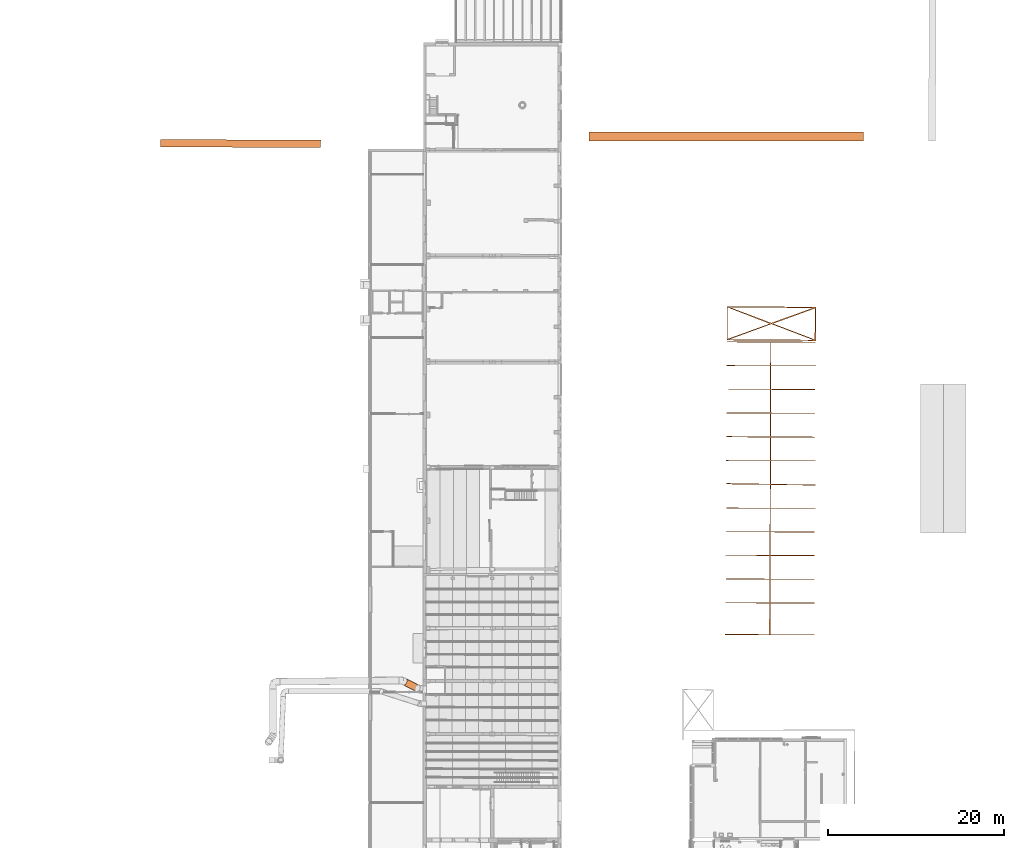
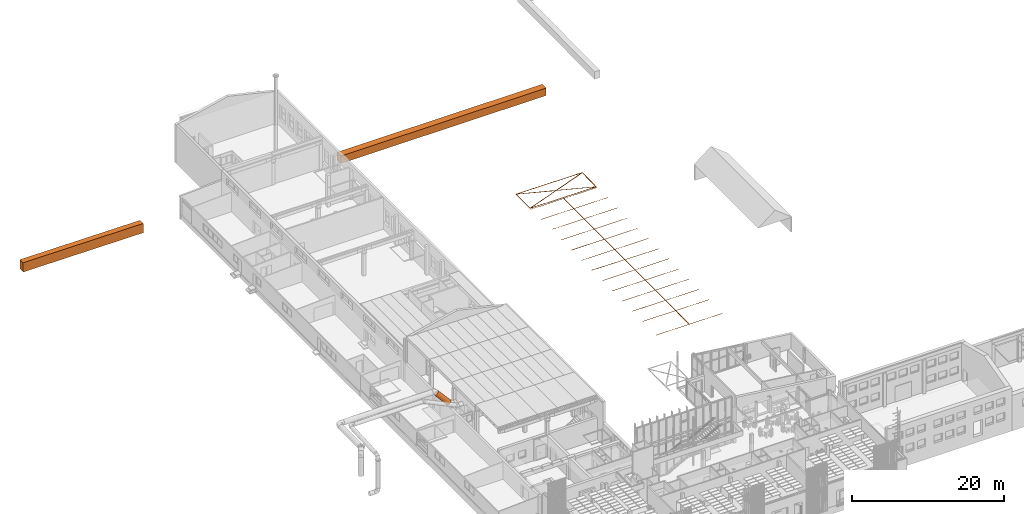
# One storey, part 296 of 301: 6 proxies.
"""IFC2X3 building model written with IfcOpenShell, lengths in millimetres."""

from ifc_helpers import new_model, entity, si_unit, converted_unit, derived_unit, money_unit, direction, frame, origin_with_axes, place, context, subcontext, project, spatial, open_shell, faceted_brep, surface_model, material, type_object, element, save


model = new_model("IFC2X3")

# Units and contexts
model_context = context("Model", 3, precision=0.01, world=origin_with_axes(), true_north=direction((0.0, 1.0)))
body_context = subcontext(model_context, "Body", "Model", "MODEL_VIEW")
ifc_project = project(units=[si_unit("LENGTHUNIT", "METRE", prefix="MILLI"), si_unit("AREAUNIT", "SQUARE_METRE"), si_unit("VOLUMEUNIT", "CUBIC_METRE"), converted_unit("PLANEANGLEUNIT", "DEGREE", entity("IfcPlaneAngleMeasure", 0.0174532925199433), si_unit("PLANEANGLEUNIT", "RADIAN"), dimensions=[0, 0, 0, 0, 0, 0, 0]), money_unit("EUR"), converted_unit("TIMEUNIT", "Year", entity("IfcTimeMeasure", 31557600.0), si_unit("TIMEUNIT", "SECOND"), dimensions=[0, 0, 1, 0, 0, 0, 0]), si_unit("MASSUNIT", "GRAM", prefix="KILO"), si_unit("THERMODYNAMICTEMPERATUREUNIT", "DEGREE_CELSIUS"), si_unit("LUMINOUSINTENSITYUNIT", "LUMEN"), si_unit("ENERGYUNIT", "JOULE", prefix="MEGA"), derived_unit("THERMALCONDUCTANCEUNIT", [(si_unit("POWERUNIT", "WATT"), 1), (si_unit("LENGTHUNIT", "METRE"), -1), (si_unit("THERMODYNAMICTEMPERATUREUNIT", "KELVIN"), -1)]), derived_unit("SPECIFICHEATCAPACITYUNIT", [(si_unit("ENERGYUNIT", "JOULE"), 1), (si_unit("MASSUNIT", "GRAM", prefix="KILO"), -1), (si_unit("THERMODYNAMICTEMPERATUREUNIT", "KELVIN"), -1)]), derived_unit("MASSDENSITYUNIT", [(si_unit("MASSUNIT", "GRAM", prefix="KILO"), 1), (si_unit("VOLUMEUNIT", "CUBIC_METRE"), -1)])], contexts=[model_context])

# Site, building, storey
site_placement = place(None, frame((0.0, 0.0, 8650.0), z_axis=(0.0, 0.0, 1.0), x_axis=(1.0, 0.0, 0.0)))
site = spatial("IfcSite", under=ifc_project, at=site_placement, Name="43301:001:0844", CompositionType="ELEMENT")
building_placement = place(site_placement, origin_with_axes())
building = spatial("IfcBuilding", under=site, at=building_placement, Name="Kuressaare Ametikooli tuulikute mehaanikute õppekorpus", CompositionType="ELEMENT")
storey_placement = place(building_placement, origin_with_axes())
storey = spatial("IfcBuildingStorey", under=building, at=storey_placement, Name="1.korrus", CompositionType="ELEMENT", Elevation=0.0)

# Proxies
ifc_material = material(Name="GENEERILINE - KONSTRUKTRIOON")
building_element_proxy_type_1 = type_object("IfcBuildingElementProxyType", Name="GENEERILINE - KONSTRUKTRIOON 20", PredefinedType="NOTDEFINED")
proxy_1_placement = place(storey_placement, frame((122430.4075336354, 88858.4136833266, -500.0), z_axis=(0.0, 0.0, 1.0), x_axis=(1.0, 0.0, 0.0)))
element("IfcBuildingElementProxy", 1, at=proxy_1_placement, inside=storey, type_object=building_element_proxy_type_1, material=ifc_material, context=body_context, shape_type="Brep", body=[
    faceted_brep([(0.0, 0.0, 0.0), (0.0, 0.0, -20.00000000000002), (10120.95669643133, -68.11050356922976, -20.00000000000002), (10120.95669643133, -68.11050356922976, 0.0), (25.90202052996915, 3848.939802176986, 0.0), (25.90202052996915, 3848.939802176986, -20.00000000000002), (10146.85871696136, 3780.829298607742, -20.00000000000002), (4884.656552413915, 1875.834626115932, -20.00000000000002), (99.57835000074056, 3728.377258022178, -20.00000000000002), (99.57835000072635, 141.5393962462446, -20.00000000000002), (343.530965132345, 3739.535767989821, -20.00000000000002), (5073.5973617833, 1961.044111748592, -20.00000000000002), (9781.777729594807, 3669.515544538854, -20.00000000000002), (9997.076970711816, 81.63685423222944, -20.00000000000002), (10041.36672550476, 3623.425166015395, -20.00000000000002), (5256.28852309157, 1887.011137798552, -20.00000000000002), (343.5309651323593, 102.6410153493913, -20.00000000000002), (9800.87586100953, 42.45892708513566, -20.00000000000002), (5073.597361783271, 1837.465438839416, -20.00000000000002), (10146.85871696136, 3780.829298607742, 0.0), (99.57835000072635, 141.5393962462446, 0.0), (99.57835000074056, 3728.377258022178, 0.0), (4884.656552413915, 1875.834626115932, 0.0), (9781.777729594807, 3669.515544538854, 0.0), (5073.5973617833, 1961.044111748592, 0.0), (343.530965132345, 3739.535767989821, 0.0), (5256.28852309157, 1887.011137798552, 0.0), (10041.36672550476, 3623.425166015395, 0.0), (9997.076970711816, 81.63685423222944, 0.0), (5073.597361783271, 1837.465438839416, 0.0), (9800.87586100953, 42.45892708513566, 0.0), (343.5309651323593, 102.6410153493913, 0.0)], [[[0, 1, 2, 3]], [[4, 5, 1, 0]], [[2, 1, 5, 6], [7, 8, 9], [10, 11, 12], [13, 14, 15], [16, 17, 18]], [[3, 2, 6, 19]], [[4, 0, 3, 19], [20, 21, 22], [23, 24, 25], [26, 27, 28], [29, 30, 31]], [[19, 6, 5, 4]], [[21, 8, 7, 22]], [[20, 9, 8, 21]], [[22, 7, 9, 20]], [[24, 11, 10, 25]], [[23, 12, 11, 24]], [[25, 10, 12, 23]], [[27, 14, 13, 28]], [[26, 15, 14, 27]], [[28, 13, 15, 26]], [[30, 17, 16, 31]], [[29, 18, 17, 30]], [[31, 16, 18, 29]]]),
])
proxy_2_placement = place(storey_placement, frame((122430.4075336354, 88858.4136833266, -500.0), z_axis=(0.0, 0.0, 1.0), x_axis=(1.0, 0.0, 0.0)))
element("IfcBuildingElementProxy", 2, at=proxy_2_placement, inside=storey, type_object=building_element_proxy_type_1, material=ifc_material, context=body_context, shape_type="Brep", body=[
    faceted_brep([(0.0, 0.0, 0.0), (0.0, 0.0, -20.00000000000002), (10120.95669643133, -68.11050356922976, -20.00000000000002), (10120.95669643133, -68.11050356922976, 0.0), (25.90202052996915, 3848.939802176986, 0.0), (25.90202052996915, 3848.939802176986, -20.00000000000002), (10146.85871696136, 3780.829298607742, -20.00000000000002), (4884.656552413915, 1875.834626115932, -20.00000000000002), (99.57835000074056, 3728.377258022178, -20.00000000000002), (99.57835000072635, 141.5393962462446, -20.00000000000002), (343.530965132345, 3739.535767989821, -20.00000000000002), (5073.5973617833, 1961.044111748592, -20.00000000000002), (9781.777729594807, 3669.515544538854, -20.00000000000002), (9997.076970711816, 81.63685423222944, -20.00000000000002), (10041.36672550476, 3623.425166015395, -20.00000000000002), (5256.28852309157, 1887.011137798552, -20.00000000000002), (343.5309651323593, 102.6410153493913, -20.00000000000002), (9800.87586100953, 42.45892708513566, -20.00000000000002), (5073.597361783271, 1837.465438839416, -20.00000000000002), (10146.85871696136, 3780.829298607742, 0.0), (99.57835000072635, 141.5393962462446, 0.0), (99.57835000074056, 3728.377258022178, 0.0), (4884.656552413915, 1875.834626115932, 0.0), (9781.777729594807, 3669.515544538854, 0.0), (5073.5973617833, 1961.044111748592, 0.0), (343.530965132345, 3739.535767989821, 0.0), (5256.28852309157, 1887.011137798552, 0.0), (10041.36672550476, 3623.425166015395, 0.0), (9997.076970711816, 81.63685423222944, 0.0), (5073.597361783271, 1837.465438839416, 0.0), (9800.87586100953, 42.45892708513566, 0.0), (343.5309651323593, 102.6410153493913, 0.0)], [[[0, 1, 2, 3]], [[4, 5, 1, 0]], [[2, 1, 5, 6], [7, 8, 9], [10, 11, 12], [13, 14, 15], [16, 17, 18]], [[3, 2, 6, 19]], [[4, 0, 3, 19], [20, 21, 22], [23, 24, 25], [26, 27, 28], [29, 30, 31]], [[19, 6, 5, 4]], [[21, 8, 7, 22]], [[20, 9, 8, 21]], [[22, 7, 9, 20]], [[24, 11, 10, 25]], [[23, 12, 11, 24]], [[25, 10, 12, 23]], [[27, 14, 13, 28]], [[26, 15, 14, 27]], [[28, 13, 15, 26]], [[30, 17, 16, 31]], [[29, 18, 17, 30]], [[31, 16, 18, 29]]]),
])
building_element_proxy_type_2 = type_object("IfcBuildingElementProxyType", Name="GENEERILINE - KONSTRUKTRIOON 850", PredefinedType="NOTDEFINED")
proxy_3_placement = place(storey_placement, frame((58031.7783611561, 110843.1492572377, -1500.0), z_axis=(0.0, 0.0, 1.0), x_axis=(0.9999888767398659, -0.004716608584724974, 0.0)))
element("IfcBuildingElementProxy", 3, at=proxy_3_placement, inside=storey, type_object=building_element_proxy_type_2, material=ifc_material, context=body_context, shape_type="Brep", body=[
    faceted_brep([(0.0, 849.9999999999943, 0.0), (18215.16605798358, 850.0000000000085, 0.0), (18215.16605798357, 0.0, 0.0), (0.0, 0.0, 0.0), (0.0, 849.9999999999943, 1500.0), (18215.16605798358, 850.0000000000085, 1500.0), (18215.16605798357, 0.0, 1500.0), (0.0, 0.0, 1500.0)], [[[0, 1, 2, 3]], [[4, 5, 1, 0]], [[2, 1, 5, 6]], [[3, 2, 6, 7]], [[4, 0, 3, 7]], [[7, 6, 5, 4]]]),
])
building_element_proxy_type_3 = type_object("IfcBuildingElementProxyType", Name="GENEERILINE - KONSTRUKTRIOON 1030", PredefinedType="NOTDEFINED")
proxy_4_placement = place(storey_placement, frame((106739.988251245, 111515.2261616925, -1500.0), z_axis=(0.0, 0.0, 1.0), x_axis=(1.0, 0.0, 0.0)))
element("IfcBuildingElementProxy", 4, at=proxy_4_placement, inside=storey, type_object=building_element_proxy_type_3, material=ifc_material, context=body_context, shape_type="Brep", body=[
    faceted_brep([(0.0, 1030.000000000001, 0.0), (31233.73694227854, 1030.000000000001, 0.0), (31233.73694227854, 0.0, 0.0), (0.0, 0.0, 0.0), (0.0, 1030.000000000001, 1200.0), (31233.73694227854, 1030.000000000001, 1200.0), (31233.73694227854, 0.0, 1200.0), (0.0, 0.0, 1200.0)], [[[0, 1, 2, 3]], [[4, 5, 1, 0]], [[2, 1, 5, 6]], [[3, 2, 6, 7]], [[4, 0, 3, 7]], [[7, 6, 5, 4]]]),
])
building_element_proxy_type_4 = type_object("IfcBuildingElementProxyType", Name="GENEERILINE - KONSTRUKTRIOON 10", PredefinedType="NOTDEFINED")
proxy_5_placement = place(storey_placement, frame((122253.5304096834, 55345.74831481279, -500.0), z_axis=(0.0, 0.0, 1.0), x_axis=(1.0, 0.0, 0.0)))
element("IfcBuildingElementProxy", 5, at=proxy_5_placement, inside=storey, type_object=building_element_proxy_type_4, material=ifc_material, context=body_context, shape_type="Brep", body=[
    faceted_brep([(0.0, 0.0, 0.0), (0.0, 0.0, -10.00000000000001), (10146.43569666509, -31.57187734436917, -10.00000000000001), (10146.43569666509, -31.57187734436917, 0.0), (0.2489285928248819, 79.99961271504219, 0.0), (0.2489285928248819, 79.99961271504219, -10.00000000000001), (4991.690418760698, 64.46813119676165, -10.00000000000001), (5025.976009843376, 3589.378512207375, -10.00000000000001), (23.14186792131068, 3604.94544335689, -10.00000000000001), (24.64218650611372, 3701.585919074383, -10.00000000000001), (5026.2249384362, 3669.378124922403, -10.00000000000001), (5034.401625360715, 6297.167001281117, -10.00000000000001), (70.08955341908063, 6312.21229374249, -10.00000000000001), (70.39869020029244, 6411.561358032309, -10.00000000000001), (5034.649357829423, 6376.782208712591, -10.00000000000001), (5055.06541036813, 8991.96835887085, -10.00000000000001), (59.75433606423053, 9007.51188107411, -10.00000000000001), (60.0032646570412, 9087.511493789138, -10.00000000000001), (5056.307335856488, 9071.964881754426, -10.00000000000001), (5060.354006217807, 11671.28028299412, -10.00000000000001), (95.60547922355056, 11686.7287060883, -10.00000000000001), (95.85440781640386, 11766.72831880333, -10.00000000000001), (5060.47855194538, 11751.28028274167, -10.00000000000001), (5075.189810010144, 14365.12006949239, -10.00000000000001), (124.8246461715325, 14380.52373699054, -10.00000000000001), (126.2333079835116, 14460.5197410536, -10.00000000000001), (5075.438738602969, 14445.11968220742, -10.00000000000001), (5066.416716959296, 17072.75966489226, -10.00000000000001), (141.5532303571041, 17137.02723998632, -10.00000000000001), (141.9056716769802, 17250.29333277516, -10.00000000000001), (5067.606856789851, 17163.96080616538, -10.00000000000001), (5076.88127429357, 19764.01187861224, -10.00000000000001), (109.8159442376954, 19779.46751072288, -10.00000000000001), (110.0648728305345, 19859.46712343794, -10.00000000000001), (5077.166633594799, 19844.01137796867, -10.00000000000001), (5090.089086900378, 22466.71403002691, -10.00000000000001), (138.9380455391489, 22482.1201428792, -10.00000000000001), (139.2748632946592, 22590.36520099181, -10.00000000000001), (5090.622423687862, 22574.9584766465, -10.00000000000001), (5104.423600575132, 25181.99328491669, -10.00000000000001), (119.842122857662, 25197.50342066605, -10.00000000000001), (120.0910514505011, 25277.50303338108, -10.00000000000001), (5104.67252916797, 25261.99289763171, -10.00000000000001), (5120.182262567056, 27877.95079188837, -10.00000000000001), (351.7865832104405, 27892.78823904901, -10.00000000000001), (352.0355118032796, 27972.78785176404, -10.00000000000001), (5120.431191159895, 27957.95040460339, -10.00000000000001), (5120.074140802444, 30571.37721375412, -10.00000000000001), (132.5157028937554, 30586.89661267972, -10.00000000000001), (132.7646314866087, 30666.89622539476, -10.00000000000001), (5120.323069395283, 30651.37682646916, -10.00000000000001), (5134.334558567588, 33268.13819048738, -10.00000000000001), (185.6023751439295, 33283.53677676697, -10.00000000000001), (185.851303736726, 33363.536389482, -10.00000000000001), (10250.25122059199, 33332.21977651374, -10.00000000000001), (10250.00229199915, 33252.22016379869, -10.00000000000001), (5230.888607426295, 33267.837750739, -10.00000000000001), (5222.74617713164, 30651.05812442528, -10.00000000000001), (10303.50087284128, 30635.2487339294, -10.00000000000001), (10303.25194424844, 30555.24912121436, -10.00000000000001), (5222.497248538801, 30571.05851171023, -10.00000000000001), (5214.36533313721, 27957.65811701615, -10.00000000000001), (10233.47901771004, 27942.04053007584, -10.00000000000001), (10233.23008911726, 27862.04091736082, -10.00000000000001), (5214.11640454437, 27877.65850430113, -10.00000000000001), (5205.976459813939, 25261.67767804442, -10.00000000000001), (10225.09014438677, 25246.06009110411, -10.00000000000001), (10224.84121579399, 25166.06047838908, -10.00000000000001), (5205.7275312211, 25181.67806532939, -10.00000000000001), (5197.527478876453, 22546.3801095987, -10.00000000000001), (10216.64116344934, 22530.76252265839, -10.00000000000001), (10216.3922348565, 22450.76290994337, -10.00000000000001), (5197.278550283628, 22466.38049688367, -10.00000000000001), (5189.117643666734, 19843.66302868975, -10.00000000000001), (10269.87233937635, 19827.85363819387, -10.00000000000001), (10269.62341078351, 19747.85402547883, -10.00000000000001), (5188.868715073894, 19763.6634159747, -10.00000000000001), (5180.772006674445, 17161.57769792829, -10.00000000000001), (10261.2975178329, 17072.11395088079, -10.00000000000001), (10261.04858924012, 16992.11433816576, -10.00000000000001), (5180.490127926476, 17070.98870446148, -10.00000000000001), (5172.318476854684, 14444.81822903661, -10.00000000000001), (10253.07317256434, 14429.00883854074, -10.00000000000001), (10252.8242439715, 14349.00922582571, -10.00000000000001), (5172.069548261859, 14364.81861632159, -10.00000000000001), (5163.93620194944, 11750.95836159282, -10.00000000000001), (10183.0498865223, 11735.34077465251, -10.00000000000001), (10182.80095792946, 11655.34116193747, -10.00000000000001), (5163.687273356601, 11670.95874887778, -10.00000000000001), (5155.599224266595, 9071.655922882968, -10.00000000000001), (10174.71290883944, 9056.03833594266, -10.00000000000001), (10174.4639802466, 8976.038723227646, -10.00000000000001), (5155.35029567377, 8991.65631016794, -10.00000000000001), (5147.212704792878, 6376.431954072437, -10.00000000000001), (10166.32638936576, 6360.814367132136, -10.00000000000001), (10166.07746077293, 6280.814754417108, -10.00000000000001), (5146.963776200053, 6296.432341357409, -10.00000000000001), (5138.788285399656, 3669.02787028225, -10.00000000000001), (10157.90196997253, 3653.410283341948, -10.00000000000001), (10157.65304137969, 3573.41067062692, -10.00000000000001), (5138.539356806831, 3589.028257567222, -10.00000000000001), (5127.570940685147, 64.04532231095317, -10.00000000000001), (10146.68462525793, 48.42773537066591, -10.00000000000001), (10146.68462525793, 48.42773537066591, 0.0), (5127.570940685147, 64.04532231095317, 0.0), (5138.539356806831, 3589.028257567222, 0.0), (10157.65304137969, 3573.41067062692, 0.0), (10157.90196997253, 3653.410283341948, 0.0), (5138.788285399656, 3669.02787028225, 0.0), (5146.963776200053, 6296.432341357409, 0.0), (10166.07746077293, 6280.814754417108, 0.0), (10166.32638936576, 6360.814367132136, 0.0), (5147.212704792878, 6376.431954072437, 0.0), (5155.35029567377, 8991.65631016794, 0.0), (10174.4639802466, 8976.038723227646, 0.0), (10174.71290883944, 9056.03833594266, 0.0), (5155.599224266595, 9071.655922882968, 0.0), (5163.687273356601, 11670.95874887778, 0.0), (10182.80095792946, 11655.34116193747, 0.0), (10183.0498865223, 11735.34077465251, 0.0), (5163.93620194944, 11750.95836159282, 0.0), (5172.069548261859, 14364.81861632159, 0.0), (10252.8242439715, 14349.00922582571, 0.0), (10253.07317256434, 14429.00883854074, 0.0), (5172.318476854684, 14444.81822903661, 0.0), (5180.490127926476, 17070.98870446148, 0.0), (10261.04858924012, 16992.11433816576, 0.0), (10261.2975178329, 17072.11395088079, 0.0), (5180.772006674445, 17161.57769792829, 0.0), (5188.868715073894, 19763.6634159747, 0.0), (10269.62341078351, 19747.85402547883, 0.0), (10269.87233937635, 19827.85363819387, 0.0), (5189.117643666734, 19843.66302868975, 0.0), (5197.278550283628, 22466.38049688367, 0.0), (10216.3922348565, 22450.76290994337, 0.0), (10216.64116344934, 22530.76252265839, 0.0), (5197.527478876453, 22546.3801095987, 0.0), (5205.7275312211, 25181.67806532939, 0.0), (10224.84121579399, 25166.06047838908, 0.0), (10225.09014438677, 25246.06009110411, 0.0), (5205.976459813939, 25261.67767804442, 0.0), (5214.11640454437, 27877.65850430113, 0.0), (10233.23008911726, 27862.04091736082, 0.0), (10233.47901771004, 27942.04053007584, 0.0), (5214.36533313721, 27957.65811701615, 0.0), (5222.497248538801, 30571.05851171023, 0.0), (10303.25194424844, 30555.24912121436, 0.0), (10303.50087284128, 30635.2487339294, 0.0), (5222.74617713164, 30651.05812442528, 0.0), (5230.888607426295, 33267.837750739, 0.0), (10250.00229199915, 33252.22016379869, 0.0), (10250.25122059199, 33332.21977651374, 0.0), (185.851303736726, 33363.536389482, 0.0), (185.6023751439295, 33283.53677676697, 0.0), (5134.334558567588, 33268.13819048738, 0.0), (5120.323069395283, 30651.37682646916, 0.0), (132.7646314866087, 30666.89622539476, 0.0), (132.5157028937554, 30586.89661267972, 0.0), (5120.074140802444, 30571.37721375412, 0.0), (5120.431191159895, 27957.95040460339, 0.0), (352.0355118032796, 27972.78785176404, 0.0), (351.7865832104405, 27892.78823904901, 0.0), (5120.182262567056, 27877.95079188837, 0.0), (5104.67252916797, 25261.99289763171, 0.0), (120.0910514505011, 25277.50303338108, 0.0), (119.842122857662, 25197.50342066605, 0.0), (5104.423600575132, 25181.99328491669, 0.0), (5090.622423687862, 22574.9584766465, 0.0), (139.2748632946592, 22590.36520099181, 0.0), (138.9380455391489, 22482.1201428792, 0.0), (5090.089086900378, 22466.71403002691, 0.0), (5077.166633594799, 19844.01137796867, 0.0), (110.0648728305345, 19859.46712343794, 0.0), (109.8159442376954, 19779.46751072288, 0.0), (5076.88127429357, 19764.01187861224, 0.0), (5067.606856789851, 17163.96080616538, 0.0), (141.9056716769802, 17250.29333277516, 0.0), (141.5532303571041, 17137.02723998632, 0.0), (5066.416716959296, 17072.75966489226, 0.0), (5075.438738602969, 14445.11968220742, 0.0), (126.2333079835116, 14460.5197410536, 0.0), (124.8246461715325, 14380.52373699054, 0.0), (5075.189810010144, 14365.12006949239, 0.0), (5060.47855194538, 11751.28028274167, 0.0), (95.85440781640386, 11766.72831880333, 0.0), (95.60547922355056, 11686.7287060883, 0.0), (5060.354006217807, 11671.28028299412, 0.0), (5056.307335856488, 9071.964881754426, 0.0), (60.0032646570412, 9087.511493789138, 0.0), (59.75433606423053, 9007.51188107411, 0.0), (5055.06541036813, 8991.96835887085, 0.0), (5034.649357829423, 6376.782208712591, 0.0), (70.39869020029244, 6411.561358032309, 0.0), (70.08955341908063, 6312.21229374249, 0.0), (5034.401625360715, 6297.167001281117, 0.0), (5026.2249384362, 3669.378124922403, 0.0), (24.64218650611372, 3701.585919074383, 0.0), (23.14186792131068, 3604.94544335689, 0.0), (5025.976009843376, 3589.378512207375, 0.0), (4991.690418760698, 64.46813119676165, 0.0)], [[[0, 1, 2, 3]], [[4, 5, 1, 0]], [[2, 1, 5, 6, 7, 8, 9, 10, 11, 12, 13, 14, 15, 16, 17, 18, 19, 20, 21, 22, 23, 24, 25, 26, 27, 28, 29, 30, 31, 32, 33, 34, 35, 36, 37, 38, 39, 40, 41, 42, 43, 44, 45, 46, 47, 48, 49, 50, 51, 52, 53, 54, 55, 56, 57, 58, 59, 60, 61, 62, 63, 64, 65, 66, 67, 68, 69, 70, 71, 72, 73, 74, 75, 76, 77, 78, 79, 80, 81, 82, 83, 84, 85, 86, 87, 88, 89, 90, 91, 92, 93, 94, 95, 96, 97, 98, 99, 100, 101, 102]], [[3, 2, 102, 103]], [[4, 0, 3, 103, 104, 105, 106, 107, 108, 109, 110, 111, 112, 113, 114, 115, 116, 117, 118, 119, 120, 121, 122, 123, 124, 125, 126, 127, 128, 129, 130, 131, 132, 133, 134, 135, 136, 137, 138, 139, 140, 141, 142, 143, 144, 145, 146, 147, 148, 149, 150, 151, 152, 153, 154, 155, 156, 157, 158, 159, 160, 161, 162, 163, 164, 165, 166, 167, 168, 169, 170, 171, 172, 173, 174, 175, 176, 177, 178, 179, 180, 181, 182, 183, 184, 185, 186, 187, 188, 189, 190, 191, 192, 193, 194, 195, 196, 197, 198, 199]], [[199, 6, 5, 4]], [[198, 7, 6, 199]], [[197, 8, 7, 198]], [[196, 9, 8, 197]], [[195, 10, 9, 196]], [[194, 11, 10, 195]], [[193, 12, 11, 194]], [[192, 13, 12, 193]], [[191, 14, 13, 192]], [[190, 15, 14, 191]], [[189, 16, 15, 190]], [[188, 17, 16, 189]], [[187, 18, 17, 188]], [[186, 19, 18, 187]], [[185, 20, 19, 186]], [[184, 21, 20, 185]], [[183, 22, 21, 184]], [[182, 23, 22, 183]], [[181, 24, 23, 182]], [[180, 25, 24, 181]], [[179, 26, 25, 180]], [[178, 27, 26, 179]], [[177, 28, 27, 178]], [[176, 29, 28, 177]], [[175, 30, 29, 176]], [[174, 31, 30, 175]], [[173, 32, 31, 174]], [[172, 33, 32, 173]], [[171, 34, 33, 172]], [[170, 35, 34, 171]], [[169, 36, 35, 170]], [[168, 37, 36, 169]], [[167, 38, 37, 168]], [[166, 39, 38, 167]], [[165, 40, 39, 166]], [[164, 41, 40, 165]], [[163, 42, 41, 164]], [[162, 43, 42, 163]], [[161, 44, 43, 162]], [[160, 45, 44, 161]], [[159, 46, 45, 160]], [[158, 47, 46, 159]], [[157, 48, 47, 158]], [[156, 49, 48, 157]], [[155, 50, 49, 156]], [[154, 51, 50, 155]], [[153, 52, 51, 154]], [[152, 53, 52, 153]], [[151, 54, 53, 152]], [[150, 55, 54, 151]], [[149, 56, 55, 150]], [[148, 57, 56, 149]], [[147, 58, 57, 148]], [[146, 59, 58, 147]], [[145, 60, 59, 146]], [[144, 61, 60, 145]], [[143, 62, 61, 144]], [[142, 63, 62, 143]], [[141, 64, 63, 142]], [[140, 65, 64, 141]], [[139, 66, 65, 140]], [[138, 67, 66, 139]], [[137, 68, 67, 138]], [[136, 69, 68, 137]], [[135, 70, 69, 136]], [[134, 71, 70, 135]], [[133, 72, 71, 134]], [[132, 73, 72, 133]], [[131, 74, 73, 132]], [[130, 75, 74, 131]], [[129, 76, 75, 130]], [[128, 77, 76, 129]], [[127, 78, 77, 128]], [[126, 79, 78, 127]], [[125, 80, 79, 126]], [[124, 81, 80, 125]], [[123, 82, 81, 124]], [[122, 83, 82, 123]], [[121, 84, 83, 122]], [[120, 85, 84, 121]], [[119, 86, 85, 120]], [[118, 87, 86, 119]], [[117, 88, 87, 118]], [[116, 89, 88, 117]], [[115, 90, 89, 116]], [[114, 91, 90, 115]], [[113, 92, 91, 114]], [[112, 93, 92, 113]], [[111, 94, 93, 112]], [[110, 95, 94, 111]], [[109, 96, 95, 110]], [[108, 97, 96, 109]], [[107, 98, 97, 108]], [[106, 99, 98, 107]], [[105, 100, 99, 106]], [[104, 101, 100, 105]], [[103, 102, 101, 104]]]),
])
building_element_proxy_type_5 = type_object("IfcBuildingElementProxyType", Name="IfcBuildingElementProxy", PredefinedType="NOTDEFINED")
proxy_6_placement = place(storey_placement, frame((85761.72802190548, 50029.61169762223, 6222.426589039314), z_axis=(1.0, 0.0, 0.0), x_axis=(0.0, 1.0, 0.0)))
element("IfcBuildingElementProxy", 6, at=proxy_6_placement, inside=storey, type_object=building_element_proxy_type_5, context=body_context, shape_type="SurfaceModel", body=[
    surface_model("IfcShellBasedSurfaceModel", [(126.213294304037, -291.2677165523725, -245.0190230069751), (214.1775049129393, -281.343009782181, -189.1430866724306), (-556.3859427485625, -1873.623031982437, 1306.758784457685), (-644.3501533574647, -1883.54773875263, 1250.88284812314), (287.5458725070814, -252.2452418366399, -120.3773615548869), (-483.0175751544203, -1844.525264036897, 1375.524509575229), (29.64785626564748, -281.343009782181, -284.1973178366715), (-740.9155913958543, -1873.623031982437, 1211.704553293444), (341.318464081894, -205.9573775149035, -43.40811818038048), (-429.2449835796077, -1798.237399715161, 1452.493752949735), (-68.93803418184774, -252.2452418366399, -304.0080351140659), (-839.5014818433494, -1844.525264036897, 1191.89383601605), (371.8307663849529, -145.6338582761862, 36.51931671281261), (-398.7326812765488, -1737.913880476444, 1532.421187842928), (-162.8259115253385, -205.9573775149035, -303.1011071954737), (-933.3893591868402, -1798.237399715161, 1192.800763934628), (377.0034164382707, -75.38563226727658, 113.9580205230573), (-393.5600312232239, -1667.665654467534, 1609.859891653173), (-245.6174720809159, -145.6338582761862, -281.5383397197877), (-1016.180919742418, -1737.913880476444, 1214.363531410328), (356.4839066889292, 0.0, 183.6306735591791), (-414.0795409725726, -1592.280022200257, 1679.532544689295), (-311.6706078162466, -75.38563226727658, -240.789199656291), (-1082.234055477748, -1667.665654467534, 1255.112671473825), (311.6706078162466, 75.38563226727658, 240.789199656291), (-458.8928398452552, -1516.89438993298, 1736.691070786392), (-356.4839066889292, 0.0, -183.6306735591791), (-1127.047354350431, -1592.280022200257, 1312.271197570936), (245.6174720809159, 145.6338582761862, 281.5383397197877), (-524.9459755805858, -1446.646163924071, 1777.440210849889), (-377.0034164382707, 75.38563226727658, -113.9580205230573), (-1147.566864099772, -1516.89438993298, 1381.943850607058), (162.8259115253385, 205.9573775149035, 303.1011071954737), (-607.7375361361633, -1386.322644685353, 1799.002978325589), (-371.8307663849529, 145.6338582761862, -36.51931671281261), (-1142.394214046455, -1446.646163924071, 1459.382554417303), (68.93803418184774, 252.2452418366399, 304.0080351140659), (-701.6254134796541, -1340.034780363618, 1799.909906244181), (-341.318464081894, 205.9573775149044, 43.40811818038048), (-1111.881911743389, -1386.322644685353, 1539.309989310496), (-29.64785626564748, 281.343009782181, 284.1973178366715), (-800.2113039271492, -1310.937012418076, 1780.099188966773), (-287.5458725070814, 252.2452418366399, 120.3773615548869), (-1058.109320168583, -1340.034780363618, 1616.279232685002), (-126.213294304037, 291.2677165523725, 245.0190230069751), (-896.7767419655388, -1301.012305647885, 1740.920894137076), (-214.1775049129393, 281.343009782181, 189.1430866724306), (-984.740952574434, -1310.937012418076, 1685.044957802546)], [open_shell([[[0, 1, 2, 3]], [[1, 4, 5, 2]], [[6, 0, 3, 7]], [[4, 8, 9, 5]], [[10, 6, 7, 11]], [[8, 12, 13, 9]], [[14, 10, 11, 15]], [[12, 16, 17, 13]], [[18, 14, 15, 19]], [[16, 20, 21, 17]], [[22, 18, 19, 23]], [[20, 24, 25, 21]], [[26, 22, 23, 27]], [[24, 28, 29, 25]], [[30, 26, 27, 31]], [[28, 32, 33, 29]], [[34, 30, 31, 35]], [[32, 36, 37, 33]], [[38, 34, 35, 39]], [[36, 40, 41, 37]], [[42, 38, 39, 43]], [[40, 44, 45, 41]], [[46, 42, 43, 47]], [[44, 46, 47, 45]]])]),
])

save(model, "model.ifc")
